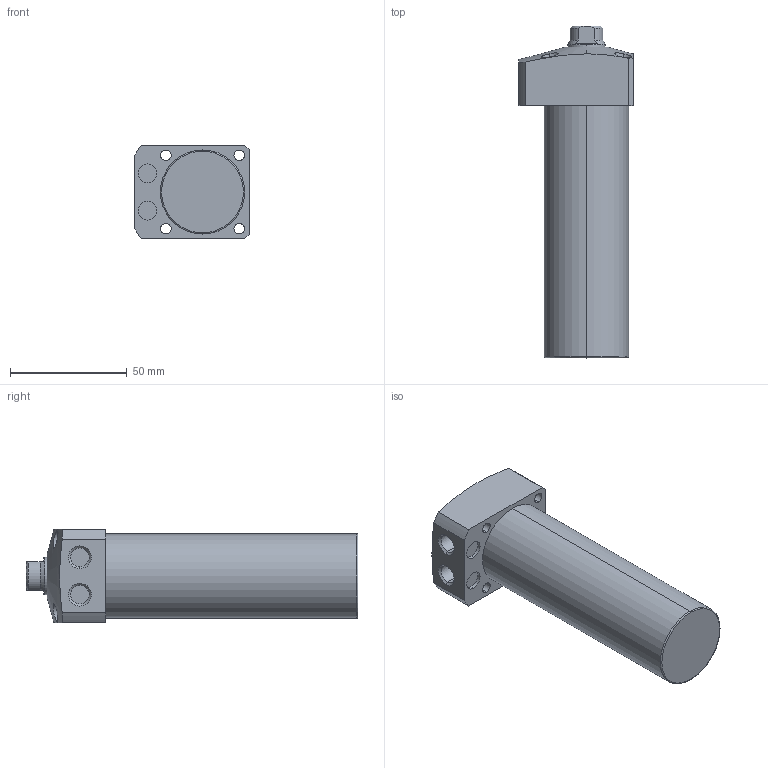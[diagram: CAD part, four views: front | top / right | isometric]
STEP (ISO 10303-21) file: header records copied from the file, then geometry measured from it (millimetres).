
FILE_DESCRIPTION (( 'STEP AP203' ), '1' );
FILE_NAME ('CLL-036CA-085.STEP', '2019-12-20T09:10:17', ( '' ), ( '' ), 'SwSTEP 2.0', 'SolidWorks 2015', '' );
FILE_SCHEMA (( 'CONFIG_CONTROL_DESIGN' ));
Length unit declared in the file: millimetre
Products named in the file (1): CLL-036CA-085
Bounding box: 49 x 142 x 40 mm (x, y, z)
Volume: 151373.1 mm3; surface area: 22390 mm2
Topology: 1 solids, 1 shells, 72 faces, 166 edges, 105 vertices
Faces by surface type: cylinder 34, plane 22, cone 14, torus 2
Entity records: 2453 total; most frequent: CARTESIAN_POINT 708, DIRECTION 364, ORIENTED_EDGE 328, EDGE_CURVE 164, AXIS2_PLACEMENT_3D 151, VERTEX_POINT 105, EDGE_LOOP 91, CIRCLE 78
